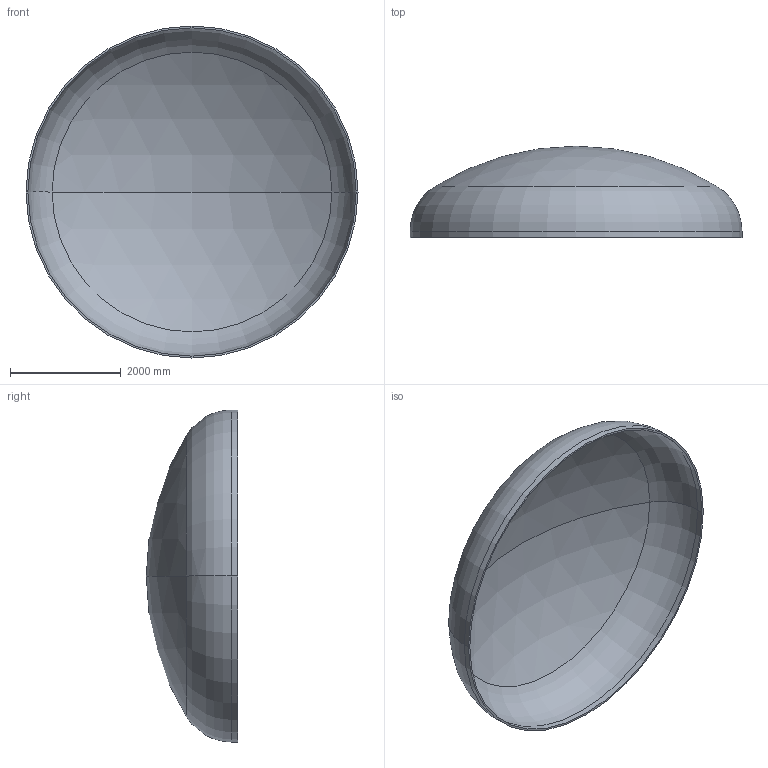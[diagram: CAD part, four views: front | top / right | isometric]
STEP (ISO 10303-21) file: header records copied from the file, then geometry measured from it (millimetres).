
FILE_DESCRIPTION (( 'STEP AP203' ), '1' );
FILE_NAME ('DIN 28013 Korbbogenform_-_Boden DIN 28013 - 6000 x 110 - I - s=34.step', '2016-07-04T10:36:39', ( '' ), ( '' ), 'SwSTEP 2.0', 'SolidWorks 2013', '' );
FILE_SCHEMA (( 'CONFIG_CONTROL_DESIGN' ));
Length unit declared in the file: millimetre
Products named in the file (1): DIN 28013 Korbbogenform_-_Boden DIN 28013 - 6000 x 110 - I - s=34
Bounding box: 6000 x 1650.07 x 6000 mm (x, y, z)
Volume: 1391898800.3 mm3; surface area: 82516042.4 mm2
Topology: 1 solids, 1 shells, 13 faces, 24 edges, 14 vertices
Faces by surface type: torus 4, cylinder 4, sphere 4, plane 1
Entity records: 407 total; most frequent: DIRECTION 72, CARTESIAN_POINT 52, ORIENTED_EDGE 48, AXIS2_PLACEMENT_3D 34, EDGE_CURVE 24, CIRCLE 20, VERTEX_POINT 14, EDGE_LOOP 14
